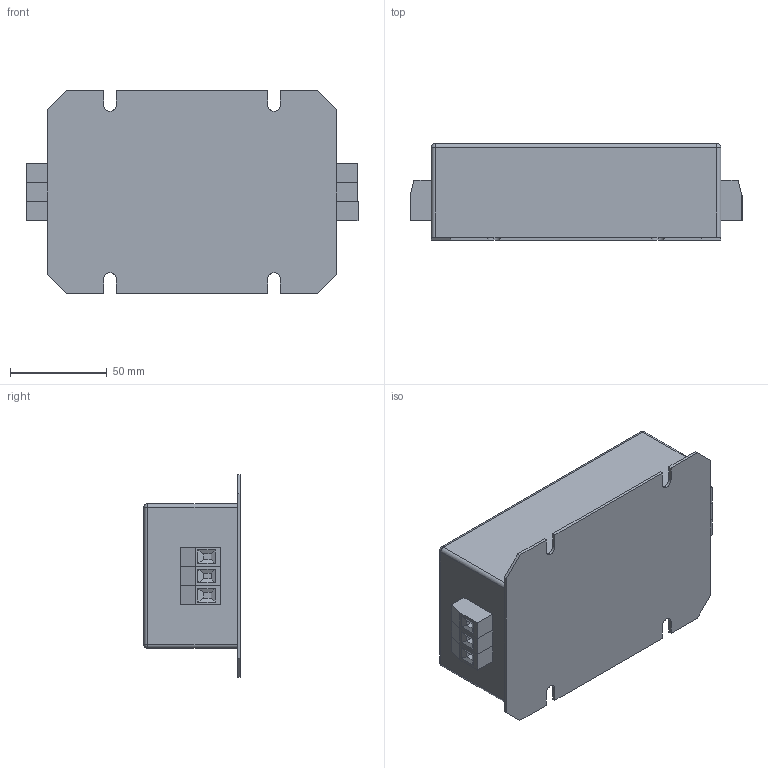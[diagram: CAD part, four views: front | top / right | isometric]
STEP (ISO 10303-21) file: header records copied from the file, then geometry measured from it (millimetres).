
FILE_DESCRIPTION (( 'STEP AP203' ), '1' );
FILE_NAME ('NF-10,16-1ph-FST.STEP', '2015-09-02T16:22:52', ( 'User' ), ( 'EPA' ), 'SwSTEP 2.0', 'SolidWorks 2008', '' );
FILE_SCHEMA (( 'CONFIG_CONTROL_DESIGN' ));
Length unit declared in the file: millimetre
Products named in the file (4): VDFK-4; NF-10,16-1ph-FST; FNK-1S; VDFK-4E
Assembly tree (7 placements, depth 2):
  NF-10,16-1ph-FST
    VDFK-4  x4
    VDFK-4E  x2
    FNK-1S
Bounding box: 172 x 50 x 105 mm (x, y, z)
Volume: 559450.9 mm3; surface area: 94942 mm2
Topology: 8 solids, 8 shells, 274 faces, 670 edges, 432 vertices
Faces by surface type: plane 226, cylinder 44, sphere 4
Entity records: 4246 total; most frequent: DIRECTION 662, CARTESIAN_POINT 646, ORIENTED_EDGE 620, EDGE_CURVE 310, VECTOR 230, LINE 230, AXIS2_PLACEMENT_3D 216, VERTEX_POINT 200
